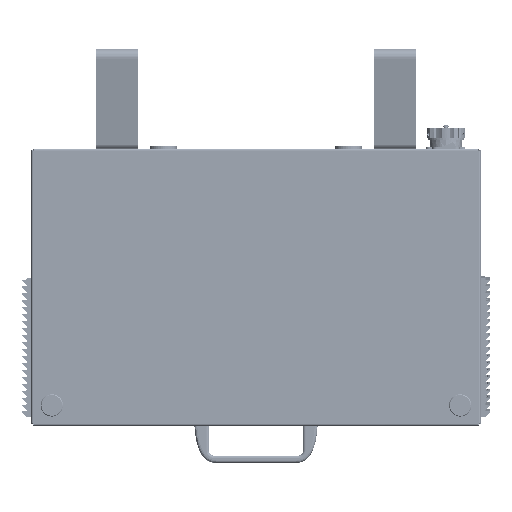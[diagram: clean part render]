
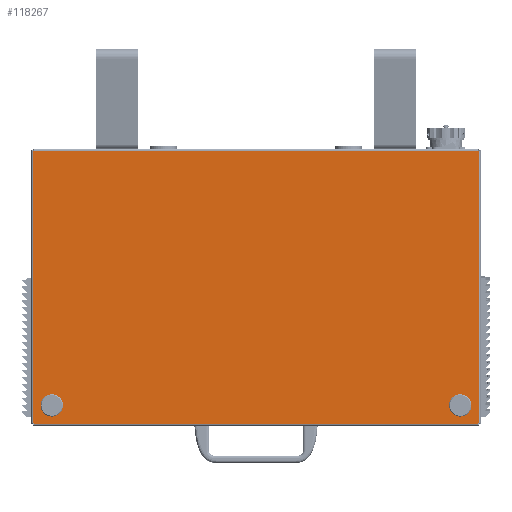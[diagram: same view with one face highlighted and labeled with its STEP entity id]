
A CAD part, front view. The second image highlights one B-rep face of the part: STEP entity #118267.
In plain terms, the highlighted planar face has unit normal (0, -1, 0).
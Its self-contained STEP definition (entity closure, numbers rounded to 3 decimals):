
#99 = DIRECTION ( 'NONE',  ( 0., 0., -1. ) ) ;
#286 = CARTESIAN_POINT ( 'NONE',  ( 220.5, -1.2, -123.5 ) ) ;
#11828 = DIRECTION ( 'NONE',  ( 0., 1., 0. ) ) ;
#21257 = EDGE_LOOP ( 'NONE', ( #232446, #73658, #335465, #112015, #49519, #187605, #350056, #92901 ) ) ;
#27159 = EDGE_LOOP ( 'NONE', ( #358774, #360477 ) ) ;
#29384 = VERTEX_POINT ( 'NONE', #212590 ) ;
#29852 = DIRECTION ( 'NONE',  ( 1., 0., 0. ) ) ;
#31806 = LINE ( 'NONE', #85299, #310623 ) ;
#47244 = CIRCLE ( 'NONE', #205265, 1. ) ;
#48941 = VECTOR ( 'NONE', #162315, 1000. ) ;
#49519 = ORIENTED_EDGE ( 'NONE', *, *, #238290, .F. ) ;
#50339 = VERTEX_POINT ( 'NONE', #280286 ) ;
#53707 = CARTESIAN_POINT ( 'NONE',  ( 220.5, -1.2, -127.5 ) ) ;
#58911 = EDGE_CURVE ( 'NONE', #111524, #83395, #31806, .T. ) ;
#66288 = DIRECTION ( 'NONE',  ( 0., 0., -1. ) ) ;
#72929 = CARTESIAN_POINT ( 'NONE',  ( 220.5, -1.2, -127.5 ) ) ;
#73658 = ORIENTED_EDGE ( 'NONE', *, *, #126792, .F. ) ;
#75190 = LINE ( 'NONE', #134535, #48941 ) ;
#78368 = DIRECTION ( 'NONE',  ( 0., -1., 0. ) ) ;
#78881 = AXIS2_PLACEMENT_3D ( 'NONE', #139342, #103947, #224604 ) ;
#83395 = VERTEX_POINT ( 'NONE', #295984 ) ;
#84983 = AXIS2_PLACEMENT_3D ( 'NONE', #346035, #11828, #375741 ) ;
#85299 = CARTESIAN_POINT ( 'NONE',  ( -240.5, -1.2, 147.5 ) ) ;
#86883 = AXIS2_PLACEMENT_3D ( 'NONE', #258439, #78368, #236531 ) ;
#88177 = CARTESIAN_POINT ( 'NONE',  ( 240.5, -1.2, 146.837 ) ) ;
#92901 = ORIENTED_EDGE ( 'NONE', *, *, #205341, .F. ) ;
#93304 = DIRECTION ( 'NONE',  ( 0., -1., 0. ) ) ;
#95805 = ORIENTED_EDGE ( 'NONE', *, *, #279616, .F. ) ;
#96374 = CIRCLE ( 'NONE', #317410, 4. ) ;
#103745 = DIRECTION ( 'NONE',  ( 0., 0., -1. ) ) ;
#103947 = DIRECTION ( 'NONE',  ( 0., -1., 0. ) ) ;
#105621 = CIRCLE ( 'NONE', #283264, 1. ) ;
#110492 = EDGE_CURVE ( 'NONE', #29384, #110953, #339430, .T. ) ;
#110953 = VERTEX_POINT ( 'NONE', #113483 ) ;
#111516 = CARTESIAN_POINT ( 'NONE',  ( 239.837, -1.2, -147.5 ) ) ;
#111524 = VERTEX_POINT ( 'NONE', #391318 ) ;
#112015 = ORIENTED_EDGE ( 'NONE', *, *, #383231, .F. ) ;
#113483 = CARTESIAN_POINT ( 'NONE',  ( -220.5, -1.2, -131.5 ) ) ;
#113568 = AXIS2_PLACEMENT_3D ( 'NONE', #181105, #309603, #157291 ) ;
#114320 = CIRCLE ( 'NONE', #127011, 4. ) ;
#118267 = ADVANCED_FACE ( 'NONE', ( #255091, #347963, #197585 ), #349901, .F. ) ;
#118903 = CIRCLE ( 'NONE', #182168, 4. ) ;
#126792 = EDGE_CURVE ( 'NONE', #83395, #207904, #105621, .T. ) ;
#127011 = AXIS2_PLACEMENT_3D ( 'NONE', #53707, #385970, #99 ) ;
#129721 = ORIENTED_EDGE ( 'NONE', *, *, #110492, .F. ) ;
#129968 = EDGE_CURVE ( 'NONE', #264130, #177767, #114320, .T. ) ;
#134535 = CARTESIAN_POINT ( 'NONE',  ( -240.5, -1.2, -147.5 ) ) ;
#139342 = CARTESIAN_POINT ( 'NONE',  ( -240.793, -1.2, -147.793 ) ) ;
#157291 = DIRECTION ( 'NONE',  ( 0., 0., -1. ) ) ;
#162315 = DIRECTION ( 'NONE',  ( -1., 0., 0. ) ) ;
#177767 = VERTEX_POINT ( 'NONE', #286 ) ;
#181105 = CARTESIAN_POINT ( 'NONE',  ( -240.793, -1.2, 147.793 ) ) ;
#182168 = AXIS2_PLACEMENT_3D ( 'NONE', #222460, #279847, #103745 ) ;
#183086 = CARTESIAN_POINT ( 'NONE',  ( 240.5, -1.2, -147.5 ) ) ;
#187605 = ORIENTED_EDGE ( 'NONE', *, *, #297079, .F. ) ;
#197585 = FACE_OUTER_BOUND ( 'NONE', #21257, .T. ) ;
#202059 = LINE ( 'NONE', #293086, #331104 ) ;
#205151 = CARTESIAN_POINT ( 'NONE',  ( -239.837, -1.2, -147.5 ) ) ;
#205265 = AXIS2_PLACEMENT_3D ( 'NONE', #241932, #238005, #358619 ) ;
#205341 = EDGE_CURVE ( 'NONE', #366662, #244320, #47244, .T. ) ;
#207904 = VERTEX_POINT ( 'NONE', #88177 ) ;
#212590 = CARTESIAN_POINT ( 'NONE',  ( -220.5, -1.2, -123.5 ) ) ;
#222460 = CARTESIAN_POINT ( 'NONE',  ( -220.5, -1.2, -127.5 ) ) ;
#222790 = CARTESIAN_POINT ( 'NONE',  ( 240.5, -1.2, -146.837 ) ) ;
#224604 = DIRECTION ( 'NONE',  ( 0., 0., -1. ) ) ;
#232446 = ORIENTED_EDGE ( 'NONE', *, *, #245000, .F. ) ;
#236531 = DIRECTION ( 'NONE',  ( 0., 0., -1. ) ) ;
#238005 = DIRECTION ( 'NONE',  ( 0., -1., 0. ) ) ;
#238290 = EDGE_CURVE ( 'NONE', #379802, #50339, #202059, .T. ) ;
#241932 = CARTESIAN_POINT ( 'NONE',  ( 240.793, -1.2, -147.793 ) ) ;
#244320 = VERTEX_POINT ( 'NONE', #111516 ) ;
#245000 = EDGE_CURVE ( 'NONE', #207904, #366662, #301778, .T. ) ;
#245614 = DIRECTION ( 'NONE',  ( 0., 0., -1. ) ) ;
#249505 = CIRCLE ( 'NONE', #78881, 1. ) ;
#255091 = FACE_BOUND ( 'NONE', #27159, .T. ) ;
#258439 = CARTESIAN_POINT ( 'NONE',  ( -220.5, -1.2, -127.5 ) ) ;
#264130 = VERTEX_POINT ( 'NONE', #276904 ) ;
#264596 = EDGE_LOOP ( 'NONE', ( #95805, #129721 ) ) ;
#276904 = CARTESIAN_POINT ( 'NONE',  ( 220.5, -1.2, -131.5 ) ) ;
#279616 = EDGE_CURVE ( 'NONE', #110953, #29384, #118903, .T. ) ;
#279847 = DIRECTION ( 'NONE',  ( 0., -1., 0. ) ) ;
#280286 = CARTESIAN_POINT ( 'NONE',  ( -240.5, -1.2, 146.837 ) ) ;
#283264 = AXIS2_PLACEMENT_3D ( 'NONE', #364305, #93304, #245614 ) ;
#290618 = CIRCLE ( 'NONE', #113568, 1. ) ;
#291830 = EDGE_CURVE ( 'NONE', #244320, #304410, #75190, .T. ) ;
#293086 = CARTESIAN_POINT ( 'NONE',  ( -240.5, -1.2, -147.5 ) ) ;
#295984 = CARTESIAN_POINT ( 'NONE',  ( 239.837, -1.2, 147.5 ) ) ;
#297079 = EDGE_CURVE ( 'NONE', #304410, #379802, #249505, .T. ) ;
#301778 = LINE ( 'NONE', #183086, #353878 ) ;
#304410 = VERTEX_POINT ( 'NONE', #205151 ) ;
#307560 = EDGE_CURVE ( 'NONE', #177767, #264130, #96374, .T. ) ;
#309603 = DIRECTION ( 'NONE',  ( 0., -1., 0. ) ) ;
#310623 = VECTOR ( 'NONE', #29852, 1000. ) ;
#311973 = CARTESIAN_POINT ( 'NONE',  ( -240.5, -1.2, -146.837 ) ) ;
#312315 = DIRECTION ( 'NONE',  ( 0., 0., -1. ) ) ;
#314247 = DIRECTION ( 'NONE',  ( 0., -1., 0. ) ) ;
#317410 = AXIS2_PLACEMENT_3D ( 'NONE', #72929, #314247, #312315 ) ;
#318826 = DIRECTION ( 'NONE',  ( 0., 0., 1. ) ) ;
#331104 = VECTOR ( 'NONE', #318826, 1000. ) ;
#335465 = ORIENTED_EDGE ( 'NONE', *, *, #58911, .F. ) ;
#339430 = CIRCLE ( 'NONE', #86883, 4. ) ;
#346035 = CARTESIAN_POINT ( 'NONE',  ( 0., -1.2, 0. ) ) ;
#347963 = FACE_BOUND ( 'NONE', #264596, .T. ) ;
#349901 = PLANE ( 'NONE',  #84983 ) ;
#350056 = ORIENTED_EDGE ( 'NONE', *, *, #291830, .F. ) ;
#353878 = VECTOR ( 'NONE', #66288, 1000. ) ;
#358619 = DIRECTION ( 'NONE',  ( 0., 0., -1. ) ) ;
#358774 = ORIENTED_EDGE ( 'NONE', *, *, #129968, .F. ) ;
#360477 = ORIENTED_EDGE ( 'NONE', *, *, #307560, .F. ) ;
#364305 = CARTESIAN_POINT ( 'NONE',  ( 240.793, -1.2, 147.793 ) ) ;
#366662 = VERTEX_POINT ( 'NONE', #222790 ) ;
#375741 = DIRECTION ( 'NONE',  ( 0., 0., 1. ) ) ;
#379802 = VERTEX_POINT ( 'NONE', #311973 ) ;
#383231 = EDGE_CURVE ( 'NONE', #50339, #111524, #290618, .T. ) ;
#385970 = DIRECTION ( 'NONE',  ( 0., -1., 0. ) ) ;
#391318 = CARTESIAN_POINT ( 'NONE',  ( -239.837, -1.2, 147.5 ) ) ;
